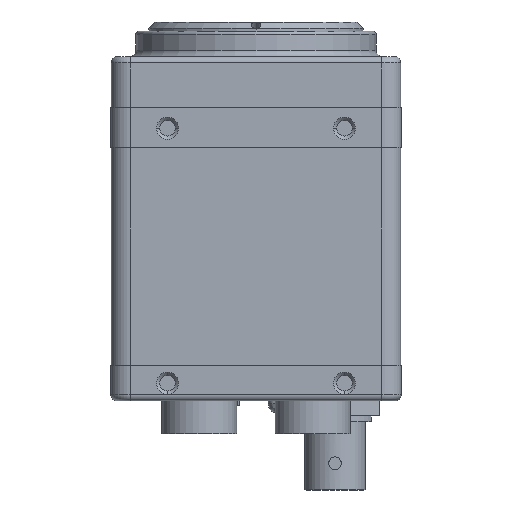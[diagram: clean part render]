
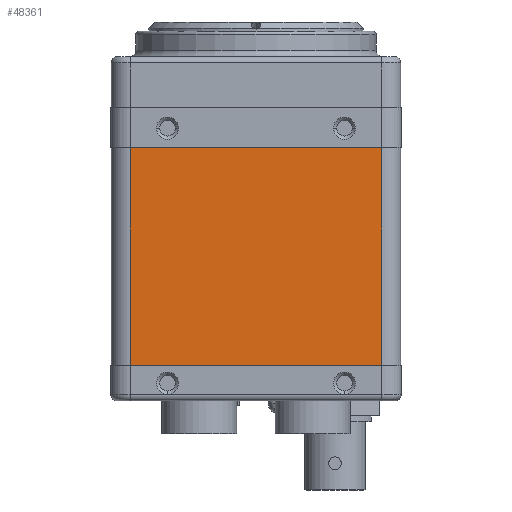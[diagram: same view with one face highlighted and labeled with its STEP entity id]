
A CAD part, front view. The second image highlights one B-rep face of the part: STEP entity #48361.
In plain terms, the highlighted planar face has unit normal (0, -1, 0).
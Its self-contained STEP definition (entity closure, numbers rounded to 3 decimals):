
#16385 = EDGE_LOOP ( 'NONE', ( #58567, #35473, #25373, #1243 ) ) ;
#49733 = LINE ( 'NONE', #49772, #49773 ) ;
#49772 = CARTESIAN_POINT ( 'NONE',  ( 19.86, -22.9, -34.45 ) ) ;
#49773 = VECTOR ( 'NONE', #49774, 1000. ) ;
#49774 = DIRECTION ( 'NONE',  ( 0., 0., 1. ) ) ;
#50020 = EDGE_CURVE ( 'NONE', #29224, #36944, #51864, .T. ) ;
#1243 = ORIENTED_EDGE ( 'NONE', *, *, #50020, .T. ) ;
#1259 = CARTESIAN_POINT ( 'NONE',  ( -19.86, -22.9, 0. ) ) ;
#34521 = LINE ( 'NONE', #34522, #34523 ) ;
#34522 = CARTESIAN_POINT ( 'NONE',  ( -22.9, -22.9, -34.45 ) ) ;
#34523 = VECTOR ( 'NONE', #34585, 1000. ) ;
#34585 = DIRECTION ( 'NONE',  ( 1., 0., 0. ) ) ;
#35473 = ORIENTED_EDGE ( 'NONE', *, *, #49056, .T. ) ;
#51864 = LINE ( 'NONE', #51865, #51866 ) ;
#51865 = CARTESIAN_POINT ( 'NONE',  ( -19.86, -22.9, -34.45 ) ) ;
#51866 = VECTOR ( 'NONE', #51867, 1000. ) ;
#51867 = DIRECTION ( 'NONE',  ( 0., 0., -1. ) ) ;
#19629 = CARTESIAN_POINT ( 'NONE',  ( -19.86, -22.9, -34.45 ) ) ;
#36944 = VERTEX_POINT ( 'NONE', #19629 ) ;
#6912 = CARTESIAN_POINT ( 'NONE',  ( 19.86, -22.9, 0. ) ) ;
#7195 = LINE ( 'NONE', #7196, #7197 ) ;
#7196 = CARTESIAN_POINT ( 'NONE',  ( -22.9, -22.9, 0. ) ) ;
#7197 = VECTOR ( 'NONE', #7198, 1000. ) ;
#7198 = DIRECTION ( 'NONE',  ( 1., 0., 0. ) ) ;
#25373 = ORIENTED_EDGE ( 'NONE', *, *, #32194, .F. ) ;
#41996 = EDGE_CURVE ( 'NONE', #36944, #58989, #34521, .T. ) ;
#58567 = ORIENTED_EDGE ( 'NONE', *, *, #41996, .T. ) ;
#58989 = VERTEX_POINT ( 'NONE', #12565 ) ;
#12565 = CARTESIAN_POINT ( 'NONE',  ( 19.86, -22.9, -34.45 ) ) ;
#29224 = VERTEX_POINT ( 'NONE', #1259 ) ;
#48221 = FACE_OUTER_BOUND ( 'NONE', #16385, .T. ) ;
#48222 = PLANE ( 'NONE',  #48223 ) ;
#48223 = AXIS2_PLACEMENT_3D ( 'NONE', #48224, #48225, #48226 ) ;
#48224 = CARTESIAN_POINT ( 'NONE',  ( -22.9, -22.9, -34.45 ) ) ;
#48225 = DIRECTION ( 'NONE',  ( 0., -1., 0. ) ) ;
#48226 = DIRECTION ( 'NONE',  ( 1., 0., 0. ) ) ;
#48361 = ADVANCED_FACE ( 'NONE', ( #48221 ), #48222, .T. ) ;
#32120 = VERTEX_POINT ( 'NONE', #6912 ) ;
#32194 = EDGE_CURVE ( 'NONE', #29224, #32120, #7195, .T. ) ;
#49056 = EDGE_CURVE ( 'NONE', #58989, #32120, #49733, .T. ) ;
